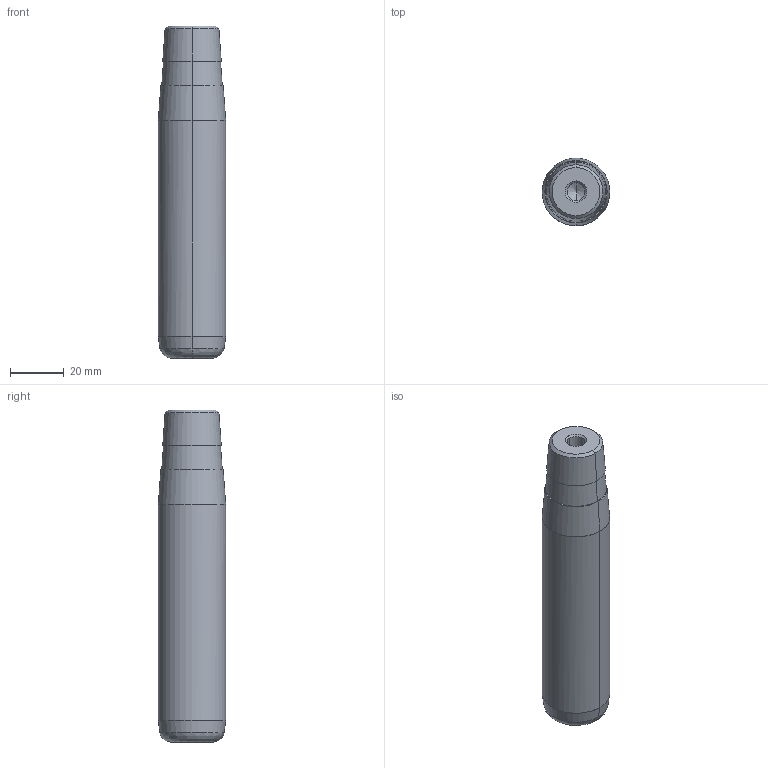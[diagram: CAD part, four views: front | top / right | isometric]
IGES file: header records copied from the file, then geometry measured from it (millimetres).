
Start section: START RECORD GO HERE.
Global section: file name: 722-25x100x123.igs; native system: DASSAULT SYSTEMES CATIA V5 R20 - www.3ds.com; preprocessor: CATIA Version 5 Release 20 ; author: Utente; organization: NB04-ASUS; date: 20210109.092628; units: millimetre
Bounding box: 25 x 25 x 123 mm (x, y, z)
Surface area: 11046.9 mm2 (no closed solid volume)
Topology: 0 solids, 0 shells, 32 faces, 192 edges, 188 vertices
Faces by surface type: revolution 30, plane 2
